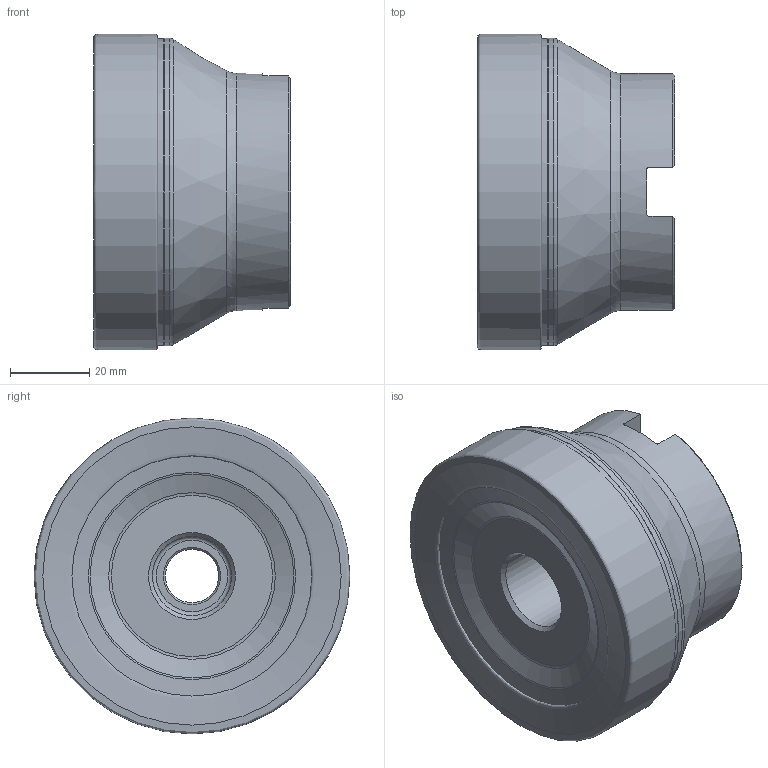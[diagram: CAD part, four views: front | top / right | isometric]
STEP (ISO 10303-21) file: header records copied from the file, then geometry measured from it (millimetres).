
FILE_DESCRIPTION(/* description */ (''),/* implementation_level */ '2;1');
FILE_NAME(/* name */ 'Stp.stp',/* time_stamp */ '2021-03-23T17:40:19+08:00',/* author */ (''),/* organization */ (''),/* preprocessor_version */ 'ST-DEVELOPER v16.7',/* originating_system */ 'SIEMENS PLM Software NX 12.0',/* authorisation */ '');
FILE_SCHEMA (('AUTOMOTIVE_DESIGN { 1 0 10303 214 3 1 1 1 }'));
Length unit declared in the file: millimetre
Products named in the file (2): APKT160408-ALH; EMP02-080-A27-AP16-07_S
Assembly tree (7 placements, depth 2):
  EMP02-080-A27-AP16-07_S
    APKT160408-ALH  x7
Bounding box: 49.88 x 79.92 x 79.92 mm (x, y, z)
Volume: 194335.2 mm3; surface area: 32850.8 mm2
Topology: 2 solids, 2 shells, 56 faces, 132 edges, 81 vertices
Faces by surface type: plane 19, cone 13, torus 12, cylinder 10, revolution 2
Full cylindrical faces by diameter (mm): 13.5 x1, 20 x1, 27 x1, 29 x1, 60 x1, 77.723 x1
Entity records: 1690 total; most frequent: CARTESIAN_POINT 497, DIRECTION 240, ORIENTED_EDGE 188, AXIS2_PLACEMENT_3D 107, EDGE_CURVE 94, EDGE_LOOP 86, VERTEX_POINT 70, FACE_BOUND 62
